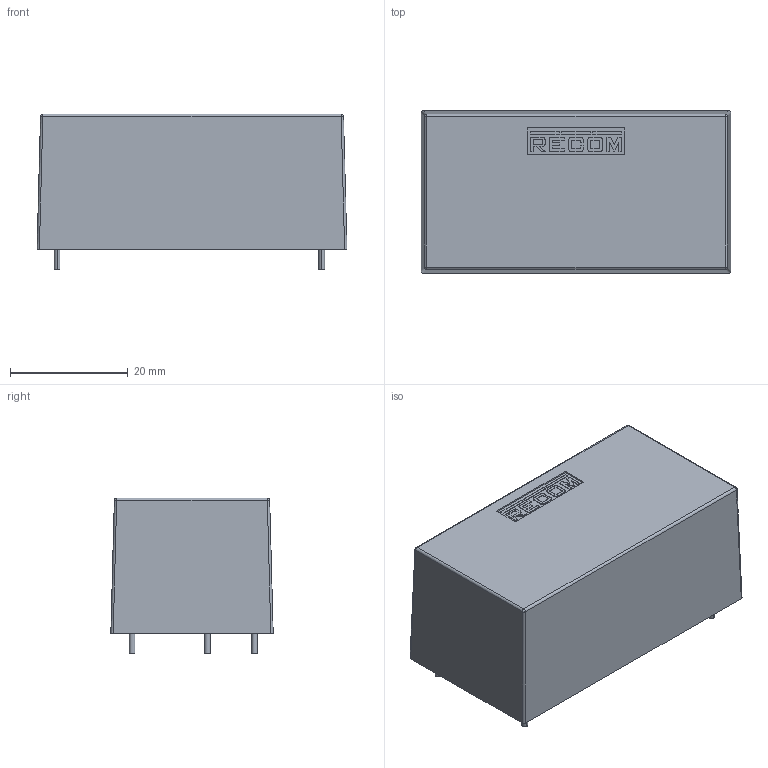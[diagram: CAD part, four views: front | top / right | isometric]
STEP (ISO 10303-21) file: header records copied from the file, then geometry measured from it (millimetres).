
FILE_DESCRIPTION (( 'STEP AP214' ), '1' );
FILE_NAME ('RAC20E-K_277_3D_20210607.stp', '2021-06-07T06:06:10', ( '' ), ( '' ), 'SwSTEP 2.0', 'SolidWorks 2019', '' );
FILE_SCHEMA (( 'AUTOMOTIVE_DESIGN' ));
Length unit declared in the file: millimetre
Products named in the file (1): RAC20E-K_277_3D_20210607
Bounding box: 52.7 x 27.6 x 26.5 mm (x, y, z)
Volume: 13850.9 mm3; surface area: 20977.9 mm2
Topology: 32 solids, 32 shells, 735 faces, 1776 edges, 1129 vertices
Faces by surface type: plane 331, cylinder 250, bspline 74, torus 64, sphere 8, cone 8
Entity records: 45513 total; most frequent: CARTESIAN_POINT 19897, ORIENTED_EDGE 3544, DIRECTION 3494, EDGE_CURVE 1772, AXIS2_PLACEMENT_3D 1269, VERTEX_POINT 1129, LINE 956, VECTOR 956
